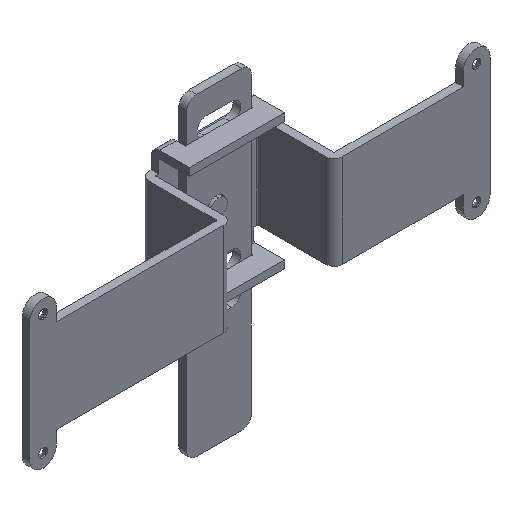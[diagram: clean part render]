
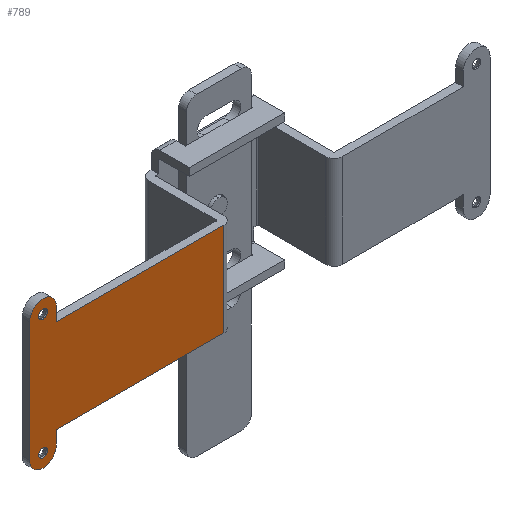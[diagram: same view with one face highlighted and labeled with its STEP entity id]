
A CAD part, isometric view. The second image highlights one B-rep face of the part: STEP entity #789.
In plain terms, the highlighted planar face has unit normal (0, -1, 0).
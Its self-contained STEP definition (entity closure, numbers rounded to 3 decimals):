
#675=FACE_BOUND('',#1093,.T.);
#676=FACE_BOUND('',#1094,.T.);
#677=FACE_BOUND('',#1095,.T.);
#714=PLANE('',#4276);
#789=ADVANCED_FACE('',(#675,#676,#677),#714,.T.);
#1093=EDGE_LOOP('',(#1379,#1380,#1381,#1382,#1383,#1384,#1385,#1386));
#1094=EDGE_LOOP('',(#1387,#1388));
#1095=EDGE_LOOP('',(#1389,#1390));
#1379=ORIENTED_EDGE('',*,*,#2266,.F.);
#1380=ORIENTED_EDGE('',*,*,#2267,.T.);
#1381=ORIENTED_EDGE('',*,*,#2268,.F.);
#1382=ORIENTED_EDGE('',*,*,#2269,.T.);
#1383=ORIENTED_EDGE('',*,*,#2247,.F.);
#1384=ORIENTED_EDGE('',*,*,#2167,.T.);
#1385=ORIENTED_EDGE('',*,*,#2270,.F.);
#1386=ORIENTED_EDGE('',*,*,#2271,.T.);
#1387=ORIENTED_EDGE('',*,*,#2152,.F.);
#1388=ORIENTED_EDGE('',*,*,#2150,.F.);
#1389=ORIENTED_EDGE('',*,*,#2146,.F.);
#1390=ORIENTED_EDGE('',*,*,#2144,.F.);
#1912=VERTEX_POINT('',#8131);
#1914=VERTEX_POINT('',#8135);
#1916=VERTEX_POINT('',#8143);
#1918=VERTEX_POINT('',#8147);
#1929=VERTEX_POINT('',#8181);
#1930=VERTEX_POINT('',#8183);
#1996=VERTEX_POINT('',#8342);
#2012=VERTEX_POINT('',#8380);
#2013=VERTEX_POINT('',#8381);
#2014=VERTEX_POINT('',#8383);
#2015=VERTEX_POINT('',#8385);
#2016=VERTEX_POINT('',#8388);
#2144=EDGE_CURVE('',#1914,#1912,#2676,.T.);
#2146=EDGE_CURVE('',#1912,#1914,#2678,.T.);
#2150=EDGE_CURVE('',#1918,#1916,#2680,.T.);
#2152=EDGE_CURVE('',#1916,#1918,#2682,.T.);
#2167=EDGE_CURVE('',#1930,#1929,#3434,.T.);
#2247=EDGE_CURVE('',#1930,#1996,#3500,.T.);
#2266=EDGE_CURVE('',#2012,#2013,#3511,.T.);
#2267=EDGE_CURVE('',#2012,#2014,#2714,.T.);
#2268=EDGE_CURVE('',#2015,#2014,#3512,.T.);
#2269=EDGE_CURVE('',#2015,#1996,#2715,.T.);
#2270=EDGE_CURVE('',#2016,#1929,#3513,.T.);
#2271=EDGE_CURVE('',#2016,#2013,#3514,.T.);
#2676=CIRCLE('',#4212,1.3);
#2678=CIRCLE('',#4215,1.3);
#2680=CIRCLE('',#4218,1.3);
#2682=CIRCLE('',#4221,1.3);
#2714=CIRCLE('',#4274,4.);
#2715=CIRCLE('',#4275,4.);
#3434=LINE('',#8182,#3972);
#3500=LINE('',#8341,#4038);
#3511=LINE('',#8379,#4049);
#3512=LINE('',#8384,#4050);
#3513=LINE('',#8387,#4051);
#3514=LINE('',#8389,#4052);
#3972=VECTOR('',#4865,1.);
#4038=VECTOR('',#4985,1.);
#4049=VECTOR('',#5018,1.);
#4050=VECTOR('',#5021,1.);
#4051=VECTOR('',#5024,1.);
#4052=VECTOR('',#5025,1.);
#4212=AXIS2_PLACEMENT_3D('',#8136,#4810,#4811);
#4215=AXIS2_PLACEMENT_3D('',#8139,#4816,#4817);
#4218=AXIS2_PLACEMENT_3D('',#8148,#4824,#4825);
#4221=AXIS2_PLACEMENT_3D('',#8151,#4830,#4831);
#4274=AXIS2_PLACEMENT_3D('',#8382,#5019,#5020);
#4275=AXIS2_PLACEMENT_3D('',#8386,#5022,#5023);
#4276=AXIS2_PLACEMENT_3D('',#8390,#5026,#5027);
#4810=DIRECTION('',(0.,-1.,0.));
#4811=DIRECTION('',(0.,0.,-1.));
#4816=DIRECTION('',(0.,-1.,0.));
#4817=DIRECTION('',(0.,0.,-1.));
#4824=DIRECTION('',(0.,-1.,0.));
#4825=DIRECTION('',(0.,0.,-1.));
#4830=DIRECTION('',(0.,-1.,0.));
#4831=DIRECTION('',(0.,0.,-1.));
#4865=DIRECTION('',(1.,0.,0.));
#4985=DIRECTION('',(0.,0.,-1.));
#5018=DIRECTION('',(0.,0.,-1.));
#5019=DIRECTION('',(0.,-1.,0.));
#5020=DIRECTION('',(0.,0.,-1.));
#5021=DIRECTION('',(0.,0.,1.));
#5022=DIRECTION('',(0.,-1.,0.));
#5023=DIRECTION('',(0.,0.,-1.));
#5024=DIRECTION('',(0.,0.,-1.));
#5025=DIRECTION('',(-1.,0.,0.));
#5026=DIRECTION('',(0.,-1.,0.));
#5027=DIRECTION('',(-1.,0.,0.));
#8131=CARTESIAN_POINT('',(3.45,-2.3,-19.3));
#8135=CARTESIAN_POINT('',(3.45,-2.3,-16.7));
#8136=CARTESIAN_POINT('',(3.45,-2.3,-18.));
#8139=CARTESIAN_POINT('',(3.45,-2.3,-18.));
#8143=CARTESIAN_POINT('',(3.45,-2.3,16.7));
#8147=CARTESIAN_POINT('',(3.45,-2.3,19.3));
#8148=CARTESIAN_POINT('',(3.45,-2.3,18.));
#8151=CARTESIAN_POINT('',(3.45,-2.3,18.));
#8181=CARTESIAN_POINT('',(57.65,-2.3,-14.));
#8182=CARTESIAN_POINT('',(7.45,-2.3,-14.));
#8183=CARTESIAN_POINT('',(7.45,-2.3,-14.));
#8341=CARTESIAN_POINT('',(7.45,-2.3,-15.));
#8342=CARTESIAN_POINT('',(7.45,-2.3,-18.));
#8379=CARTESIAN_POINT('',(7.45,-2.3,21.));
#8380=CARTESIAN_POINT('',(7.45,-2.3,18.));
#8381=CARTESIAN_POINT('',(7.45,-2.3,14.));
#8382=CARTESIAN_POINT('',(3.45,-2.3,18.));
#8383=CARTESIAN_POINT('',(-0.55,-2.3,18.));
#8384=CARTESIAN_POINT('',(-0.55,-2.3,-21.));
#8385=CARTESIAN_POINT('',(-0.55,-2.3,-18.));
#8386=CARTESIAN_POINT('',(3.45,-2.3,-18.));
#8387=CARTESIAN_POINT('',(57.65,-2.3,15.));
#8388=CARTESIAN_POINT('',(57.65,-2.3,14.));
#8389=CARTESIAN_POINT('',(57.7,-2.3,14.));
#8390=CARTESIAN_POINT('',(0.,-2.3,-22.5));
